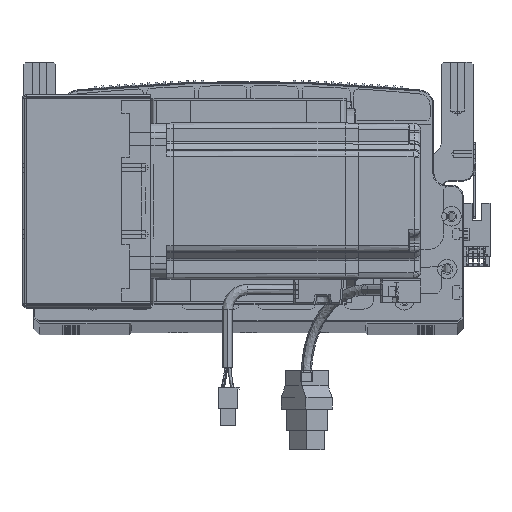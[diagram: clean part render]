
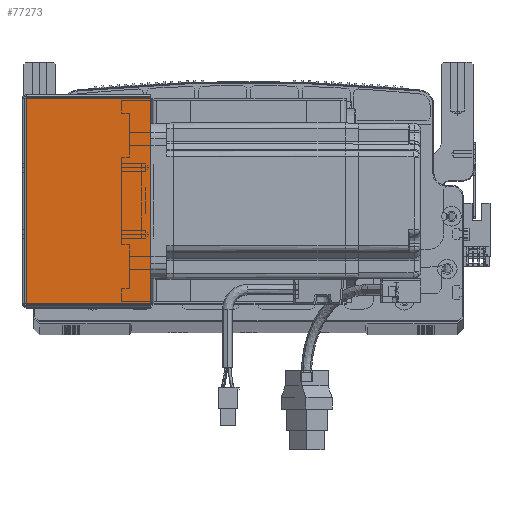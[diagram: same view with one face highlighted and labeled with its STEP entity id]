
A CAD part, top view. The second image highlights one B-rep face of the part: STEP entity #77273.
In plain terms, the highlighted planar face has unit normal (0, 0, 1) as drawn and (0, 0, -1) by its records, which use the part's own axes.
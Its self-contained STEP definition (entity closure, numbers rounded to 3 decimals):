
#787 = EDGE_CURVE ( 'NONE', #24827, #27564, #36026, .T. ) ;
#2549 = VERTEX_POINT ( 'NONE', #11676 ) ;
#2900 = PLANE ( 'NONE',  #79036 ) ;
#7915 = VECTOR ( 'NONE', #10190, 1000. ) ;
#10190 = DIRECTION ( 'NONE',  ( 0., -1., 0. ) ) ;
#10921 = CARTESIAN_POINT ( 'NONE',  ( 0., 0.707, -205.5 ) ) ;
#11676 = CARTESIAN_POINT ( 'NONE',  ( 0.737, 105.293, -205.5 ) ) ;
#11897 = DIRECTION ( 'NONE',  ( 1., 0., 0. ) ) ;
#22236 = LINE ( 'NONE', #98789, #76886 ) ;
#24827 = VERTEX_POINT ( 'NONE', #41490 ) ;
#27564 = VERTEX_POINT ( 'NONE', #76369 ) ;
#29647 = EDGE_LOOP ( 'NONE', ( #97280, #80986, #95187, #84032 ) ) ;
#34381 = VERTEX_POINT ( 'NONE', #39927 ) ;
#36026 = LINE ( 'NONE', #10921, #67573 ) ;
#39927 = CARTESIAN_POINT ( 'NONE',  ( 64.5, 105.293, -205.5 ) ) ;
#41490 = CARTESIAN_POINT ( 'NONE',  ( 0.737, 0.707, -205.5 ) ) ;
#42543 = CARTESIAN_POINT ( 'NONE',  ( 0., 0., -205.5 ) ) ;
#43948 = VECTOR ( 'NONE', #94247, 1000. ) ;
#45665 = FACE_OUTER_BOUND ( 'NONE', #29647, .T. ) ;
#49943 = DIRECTION ( 'NONE',  ( 1., 0., 0. ) ) ;
#50265 = DIRECTION ( 'NONE',  ( 0., 0., 1. ) ) ;
#53958 = LINE ( 'NONE', #54577, #7915 ) ;
#54577 = CARTESIAN_POINT ( 'NONE',  ( 0.737, 0., -205.5 ) ) ;
#59679 = DIRECTION ( 'NONE',  ( 0., -1., 0. ) ) ;
#61970 = EDGE_CURVE ( 'NONE', #2549, #24827, #53958, .T. ) ;
#67573 = VECTOR ( 'NONE', #11897, 1000. ) ;
#70690 = LINE ( 'NONE', #85783, #43948 ) ;
#72493 = EDGE_CURVE ( 'NONE', #2549, #34381, #70690, .T. ) ;
#76369 = CARTESIAN_POINT ( 'NONE',  ( 64.5, 0.707, -205.5 ) ) ;
#76886 = VECTOR ( 'NONE', #59679, 1000. ) ;
#77273 = ADVANCED_FACE ( 'NONE', ( #45665 ), #2900, .F. ) ;
#79036 = AXIS2_PLACEMENT_3D ( 'NONE', #42543, #50265, #49943 ) ;
#80986 = ORIENTED_EDGE ( 'NONE', *, *, #72493, .T. ) ;
#84032 = ORIENTED_EDGE ( 'NONE', *, *, #787, .F. ) ;
#85783 = CARTESIAN_POINT ( 'NONE',  ( 0., 105.293, -205.5 ) ) ;
#94247 = DIRECTION ( 'NONE',  ( 1., 0., 0. ) ) ;
#95187 = ORIENTED_EDGE ( 'NONE', *, *, #98332, .T. ) ;
#97280 = ORIENTED_EDGE ( 'NONE', *, *, #61970, .F. ) ;
#98332 = EDGE_CURVE ( 'NONE', #34381, #27564, #22236, .T. ) ;
#98789 = CARTESIAN_POINT ( 'NONE',  ( 64.5, 0., -205.5 ) ) ;
